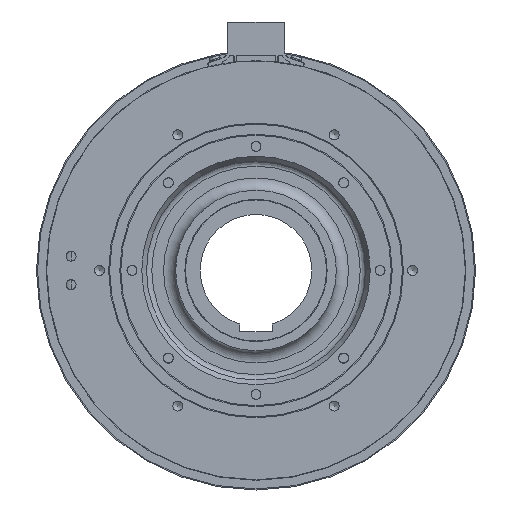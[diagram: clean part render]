
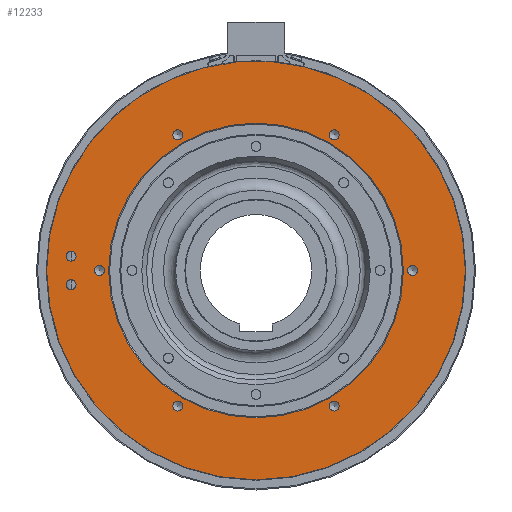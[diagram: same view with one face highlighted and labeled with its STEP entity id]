
A CAD part, left-side view. The second image highlights one B-rep face of the part: STEP entity #12233.
In plain terms, the highlighted planar face has unit normal (-1, 0, 0).
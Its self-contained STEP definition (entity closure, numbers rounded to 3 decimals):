
#980=FACE_BOUND('',#2654,.T.);
#981=FACE_BOUND('',#2655,.T.);
#982=FACE_BOUND('',#2656,.T.);
#983=FACE_BOUND('',#2657,.T.);
#984=FACE_BOUND('',#2658,.T.);
#985=FACE_BOUND('',#2659,.T.);
#986=FACE_BOUND('',#2660,.T.);
#987=FACE_BOUND('',#2661,.T.);
#988=FACE_BOUND('',#2662,.T.);
#1244=PLANE('',#13891);
#1883=FACE_OUTER_BOUND('',#2653,.T.);
#2653=EDGE_LOOP('',(#11433,#11434,#11435));
#2654=EDGE_LOOP('',(#11436,#11437));
#2655=EDGE_LOOP('',(#11438,#11439));
#2656=EDGE_LOOP('',(#11440,#11441));
#2657=EDGE_LOOP('',(#11442,#11443));
#2658=EDGE_LOOP('',(#11444,#11445));
#2659=EDGE_LOOP('',(#11446,#11447));
#2660=EDGE_LOOP('',(#11448,#11449));
#2661=EDGE_LOOP('',(#11450,#11451));
#2662=EDGE_LOOP('',(#11452));
#4751=CIRCLE('',#13498,103.);
#4752=CIRCLE('',#13499,103.);
#4922=CIRCLE('',#13825,103.);
#4934=CIRCLE('',#13846,2.459);
#4935=CIRCLE('',#13847,2.459);
#4936=CIRCLE('',#13849,2.459);
#4937=CIRCLE('',#13850,2.459);
#4940=CIRCLE('',#13855,2.459);
#4941=CIRCLE('',#13856,2.459);
#4944=CIRCLE('',#13861,2.459);
#4945=CIRCLE('',#13862,2.459);
#4948=CIRCLE('',#13867,2.459);
#4949=CIRCLE('',#13868,2.459);
#4952=CIRCLE('',#13873,2.459);
#4953=CIRCLE('',#13874,2.459);
#4956=CIRCLE('',#13879,2.459);
#4957=CIRCLE('',#13880,2.459);
#4960=CIRCLE('',#13885,2.459);
#4961=CIRCLE('',#13886,2.459);
#4964=CIRCLE('',#13890,72.5);
#5877=VERTEX_POINT('',#21022);
#5882=VERTEX_POINT('',#21032);
#5883=VERTEX_POINT('',#21034);
#6102=VERTEX_POINT('',#21994);
#6103=VERTEX_POINT('',#21995);
#6104=VERTEX_POINT('',#22000);
#6105=VERTEX_POINT('',#22001);
#6109=VERTEX_POINT('',#22013);
#6110=VERTEX_POINT('',#22014);
#6114=VERTEX_POINT('',#22026);
#6115=VERTEX_POINT('',#22027);
#6119=VERTEX_POINT('',#22039);
#6120=VERTEX_POINT('',#22040);
#6124=VERTEX_POINT('',#22052);
#6125=VERTEX_POINT('',#22053);
#6129=VERTEX_POINT('',#22065);
#6130=VERTEX_POINT('',#22066);
#6134=VERTEX_POINT('',#22078);
#6135=VERTEX_POINT('',#22079);
#6138=VERTEX_POINT('',#22088);
#7493=EDGE_CURVE('',#5883,#5882,#4751,.T.);
#7494=EDGE_CURVE('',#5877,#5883,#4752,.T.);
#7853=EDGE_CURVE('',#5882,#5877,#4922,.T.);
#7872=EDGE_CURVE('',#6102,#6103,#4934,.T.);
#7873=EDGE_CURVE('',#6103,#6102,#4935,.T.);
#7875=EDGE_CURVE('',#6104,#6105,#4936,.T.);
#7876=EDGE_CURVE('',#6105,#6104,#4937,.T.);
#7881=EDGE_CURVE('',#6109,#6110,#4940,.T.);
#7882=EDGE_CURVE('',#6110,#6109,#4941,.T.);
#7887=EDGE_CURVE('',#6114,#6115,#4944,.T.);
#7888=EDGE_CURVE('',#6115,#6114,#4945,.T.);
#7893=EDGE_CURVE('',#6119,#6120,#4948,.T.);
#7894=EDGE_CURVE('',#6120,#6119,#4949,.T.);
#7899=EDGE_CURVE('',#6124,#6125,#4952,.T.);
#7900=EDGE_CURVE('',#6125,#6124,#4953,.T.);
#7905=EDGE_CURVE('',#6129,#6130,#4956,.T.);
#7906=EDGE_CURVE('',#6130,#6129,#4957,.T.);
#7911=EDGE_CURVE('',#6134,#6135,#4960,.T.);
#7912=EDGE_CURVE('',#6135,#6134,#4961,.T.);
#7917=EDGE_CURVE('',#6138,#6138,#4964,.T.);
#11433=ORIENTED_EDGE('',*,*,#7493,.T.);
#11434=ORIENTED_EDGE('',*,*,#7853,.T.);
#11435=ORIENTED_EDGE('',*,*,#7494,.T.);
#11436=ORIENTED_EDGE('',*,*,#7872,.T.);
#11437=ORIENTED_EDGE('',*,*,#7873,.T.);
#11438=ORIENTED_EDGE('',*,*,#7875,.T.);
#11439=ORIENTED_EDGE('',*,*,#7876,.T.);
#11440=ORIENTED_EDGE('',*,*,#7881,.T.);
#11441=ORIENTED_EDGE('',*,*,#7882,.T.);
#11442=ORIENTED_EDGE('',*,*,#7887,.T.);
#11443=ORIENTED_EDGE('',*,*,#7888,.T.);
#11444=ORIENTED_EDGE('',*,*,#7893,.T.);
#11445=ORIENTED_EDGE('',*,*,#7894,.T.);
#11446=ORIENTED_EDGE('',*,*,#7899,.T.);
#11447=ORIENTED_EDGE('',*,*,#7900,.T.);
#11448=ORIENTED_EDGE('',*,*,#7905,.T.);
#11449=ORIENTED_EDGE('',*,*,#7906,.T.);
#11450=ORIENTED_EDGE('',*,*,#7911,.T.);
#11451=ORIENTED_EDGE('',*,*,#7912,.T.);
#11452=ORIENTED_EDGE('',*,*,#7917,.F.);
#12233=ADVANCED_FACE('',(#1883,#980,#981,#982,#983,#984,#985,#986,#987,
#988),#1244,.T.);
#13498=AXIS2_PLACEMENT_3D('',#21035,#16832,#16833);
#13499=AXIS2_PLACEMENT_3D('',#21036,#16834,#16835);
#13825=AXIS2_PLACEMENT_3D('',#21861,#17659,#17660);
#13846=AXIS2_PLACEMENT_3D('',#21996,#17702,#17703);
#13847=AXIS2_PLACEMENT_3D('',#21997,#17704,#17705);
#13849=AXIS2_PLACEMENT_3D('',#22002,#17709,#17710);
#13850=AXIS2_PLACEMENT_3D('',#22003,#17711,#17712);
#13855=AXIS2_PLACEMENT_3D('',#22015,#17723,#17724);
#13856=AXIS2_PLACEMENT_3D('',#22016,#17725,#17726);
#13861=AXIS2_PLACEMENT_3D('',#22028,#17737,#17738);
#13862=AXIS2_PLACEMENT_3D('',#22029,#17739,#17740);
#13867=AXIS2_PLACEMENT_3D('',#22041,#17751,#17752);
#13868=AXIS2_PLACEMENT_3D('',#22042,#17753,#17754);
#13873=AXIS2_PLACEMENT_3D('',#22054,#17765,#17766);
#13874=AXIS2_PLACEMENT_3D('',#22055,#17767,#17768);
#13879=AXIS2_PLACEMENT_3D('',#22067,#17779,#17780);
#13880=AXIS2_PLACEMENT_3D('',#22068,#17781,#17782);
#13885=AXIS2_PLACEMENT_3D('',#22080,#17793,#17794);
#13886=AXIS2_PLACEMENT_3D('',#22081,#17795,#17796);
#13890=AXIS2_PLACEMENT_3D('',#22090,#17805,#17806);
#13891=AXIS2_PLACEMENT_3D('',#22091,#17807,#17808);
#16832=DIRECTION('center_axis',(-1.,0.,0.));
#16833=DIRECTION('ref_axis',(0.,1.,0.));
#16834=DIRECTION('center_axis',(-1.,0.,0.));
#16835=DIRECTION('ref_axis',(0.,1.,0.));
#17659=DIRECTION('center_axis',(-1.,0.,0.));
#17660=DIRECTION('ref_axis',(0.,1.,0.));
#17702=DIRECTION('center_axis',(1.,0.,0.));
#17703=DIRECTION('ref_axis',(0.,0.,
1.));
#17704=DIRECTION('center_axis',(1.,0.,0.));
#17705=DIRECTION('ref_axis',(0.,0.,
1.));
#17709=DIRECTION('center_axis',(1.,0.,0.));
#17710=DIRECTION('ref_axis',(0.,0.,
1.));
#17711=DIRECTION('center_axis',(1.,0.,0.));
#17712=DIRECTION('ref_axis',(0.,0.,
1.));
#17723=DIRECTION('center_axis',(1.,0.,0.));
#17724=DIRECTION('ref_axis',(0.,0.,
1.));
#17725=DIRECTION('center_axis',(1.,0.,0.));
#17726=DIRECTION('ref_axis',(0.,0.,
1.));
#17737=DIRECTION('center_axis',(1.,0.,0.));
#17738=DIRECTION('ref_axis',(0.,0.,
1.));
#17739=DIRECTION('center_axis',(1.,0.,0.));
#17740=DIRECTION('ref_axis',(0.,0.,
1.));
#17751=DIRECTION('center_axis',(1.,0.,0.));
#17752=DIRECTION('ref_axis',(0.,0.,
1.));
#17753=DIRECTION('center_axis',(1.,0.,0.));
#17754=DIRECTION('ref_axis',(0.,0.,
1.));
#17765=DIRECTION('center_axis',(1.,0.,0.));
#17766=DIRECTION('ref_axis',(0.,0.,
1.));
#17767=DIRECTION('center_axis',(1.,0.,0.));
#17768=DIRECTION('ref_axis',(0.,0.,
1.));
#17779=DIRECTION('center_axis',(1.,0.,0.));
#17780=DIRECTION('ref_axis',(0.,0.,
1.));
#17781=DIRECTION('center_axis',(1.,0.,0.));
#17782=DIRECTION('ref_axis',(0.,0.,
1.));
#17793=DIRECTION('center_axis',(1.,0.,0.));
#17794=DIRECTION('ref_axis',(0.,0.,
1.));
#17795=DIRECTION('center_axis',(1.,0.,0.));
#17796=DIRECTION('ref_axis',(0.,0.,
1.));
#17805=DIRECTION('center_axis',(-1.,0.,0.));
#17806=DIRECTION('ref_axis',(0.,-1.,0.));
#17807=DIRECTION('center_axis',(-1.,0.,0.));
#17808=DIRECTION('ref_axis',(0.,0.,
1.));
#21022=CARTESIAN_POINT('',(-15.5,9.681,102.544));
#21032=CARTESIAN_POINT('',(-15.5,-103.,0.));
#21034=CARTESIAN_POINT('',(-15.5,103.,0.));
#21035=CARTESIAN_POINT('Origin',(-15.5,0.,0.));
#21036=CARTESIAN_POINT('Origin',(-15.5,0.,0.));
#21861=CARTESIAN_POINT('Origin',(-15.5,0.,0.));
#21994=CARTESIAN_POINT('',(-15.5,91.,9.459));
#21995=CARTESIAN_POINT('',(-15.5,91.,4.542));
#21996=CARTESIAN_POINT('Origin',(-15.5,91.,7.));
#21997=CARTESIAN_POINT('Origin',(-15.5,91.,7.));
#22000=CARTESIAN_POINT('',(-15.5,91.,-4.542));
#22001=CARTESIAN_POINT('',(-15.5,91.,-9.459));
#22002=CARTESIAN_POINT('Origin',(-15.5,91.,-7.));
#22003=CARTESIAN_POINT('Origin',(-15.5,91.,-7.));
#22013=CARTESIAN_POINT('',(-15.5,38.5,69.142));
#22014=CARTESIAN_POINT('',(-15.5,38.5,64.225));
#22015=CARTESIAN_POINT('Origin',(-15.5,38.5,66.684));
#22016=CARTESIAN_POINT('Origin',(-15.5,38.5,66.684));
#22026=CARTESIAN_POINT('',(-15.5,-38.5,69.142));
#22027=CARTESIAN_POINT('',(-15.5,-38.5,64.225));
#22028=CARTESIAN_POINT('Origin',(-15.5,-38.5,66.684));
#22029=CARTESIAN_POINT('Origin',(-15.5,-38.5,66.684));
#22039=CARTESIAN_POINT('',(-15.5,-77.,2.458));
#22040=CARTESIAN_POINT('',(-15.5,-77.,-2.459));
#22041=CARTESIAN_POINT('Origin',(-15.5,-77.,0.));
#22042=CARTESIAN_POINT('Origin',(-15.5,-77.,0.));
#22052=CARTESIAN_POINT('',(-15.5,-38.5,-64.225));
#22053=CARTESIAN_POINT('',(-15.5,-38.5,-69.142));
#22054=CARTESIAN_POINT('Origin',(-15.5,-38.5,-66.684));
#22055=CARTESIAN_POINT('Origin',(-15.5,-38.5,-66.684));
#22065=CARTESIAN_POINT('',(-15.5,38.5,-64.225));
#22066=CARTESIAN_POINT('',(-15.5,38.5,-69.142));
#22067=CARTESIAN_POINT('Origin',(-15.5,38.5,-66.684));
#22068=CARTESIAN_POINT('Origin',(-15.5,38.5,-66.684));
#22078=CARTESIAN_POINT('',(-15.5,77.,2.459));
#22079=CARTESIAN_POINT('',(-15.5,77.,-2.459));
#22080=CARTESIAN_POINT('Origin',(-15.5,77.,0.));
#22081=CARTESIAN_POINT('Origin',(-15.5,77.,0.));
#22088=CARTESIAN_POINT('',(-15.5,72.5,0.));
#22090=CARTESIAN_POINT('Origin',(-15.5,0.,0.));
#22091=CARTESIAN_POINT('Origin',(-15.5,87.5,0.));
